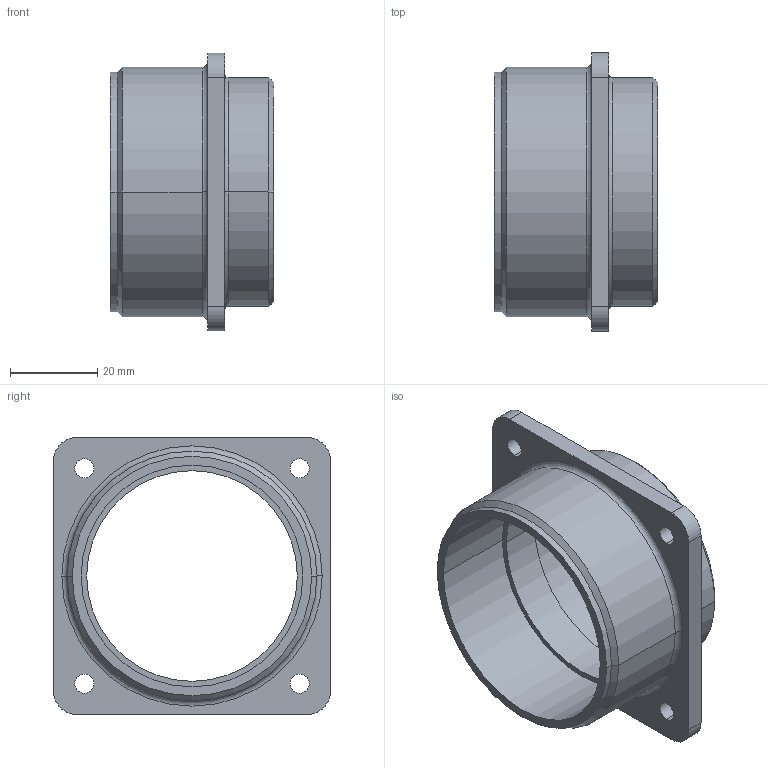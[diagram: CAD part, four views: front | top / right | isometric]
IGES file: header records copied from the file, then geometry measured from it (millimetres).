
Start section:  PTC IGES file: ms3102_36_shell.igs
Global section: file name: ms3102_36_shell.igs; native system: Creo Parametric by PTC Inc.; preprocessor: 2016260; author: t-nakamura; organization: Unknown; date: 20170605.110217; units: inch
Bounding box: 37.31 x 63.5 x 63.5 mm (x, y, z)
Surface area: 16654.8 mm2 (no closed solid volume)
Topology: 0 solids, 0 shells, 41 faces, 192 edges, 192 vertices
Faces by surface type: revolution 32, bspline 9
